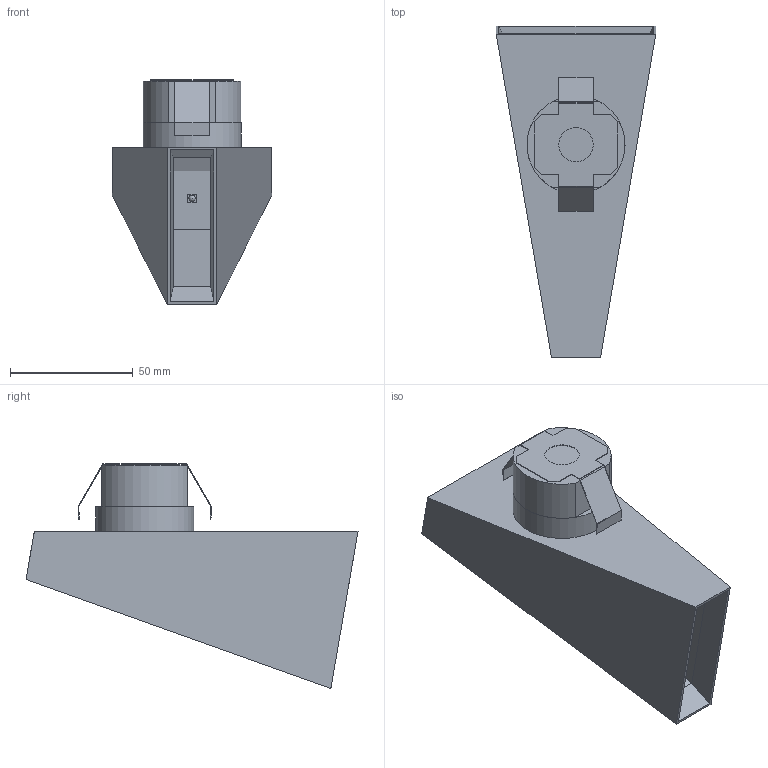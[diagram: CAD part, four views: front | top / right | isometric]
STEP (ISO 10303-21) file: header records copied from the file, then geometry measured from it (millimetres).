
FILE_DESCRIPTION(/* description */ ('TOPIX WW'),/* implementation_level */ '2;1');
FILE_NAME(/* name */ 'C:\Users\allu.DELTA\Desktop\10805.stp',/* time_stamp */ '2021-04-01T15:48:21+02:00',/* author */ ('BEPI'),/* organization */ (''),/* preprocessor_version */ 'ST-DEVELOPER v18.1',/* originating_system */ 'Autodesk Inventor 2020',/* authorisation */ '');
FILE_SCHEMA (('AUTOMOTIVE_DESIGN { 1 0 10303 214 3 1 1 }'));
Length unit declared in the file: millimetre
Products named in the file (6): 10805; P5760; 09952; 152 91 71 79 10; 17101; P2573
Assembly tree (6 placements, depth 3):
  10805
    P5760
    09952
    152 91 71 79 10  x2
      17101
    P2573
Bounding box: 65 x 135.34 x 91.65 mm (x, y, z)
Volume: 145546.1 mm3; surface area: 49725.7 mm2
Topology: 5 solids, 5 shells, 90 faces, 236 edges, 156 vertices
Faces by surface type: plane 78, cylinder 10, sphere 2
Full cylindrical faces by diameter (mm): 14 x1, 40 x1
Entity records: 2827 total; most frequent: CARTESIAN_POINT 460, ORIENTED_EDGE 438, DIRECTION 436, EDGE_CURVE 219, LINE 194, VECTOR 194, VERTEX_POINT 145, AXIS2_PLACEMENT_3D 121
